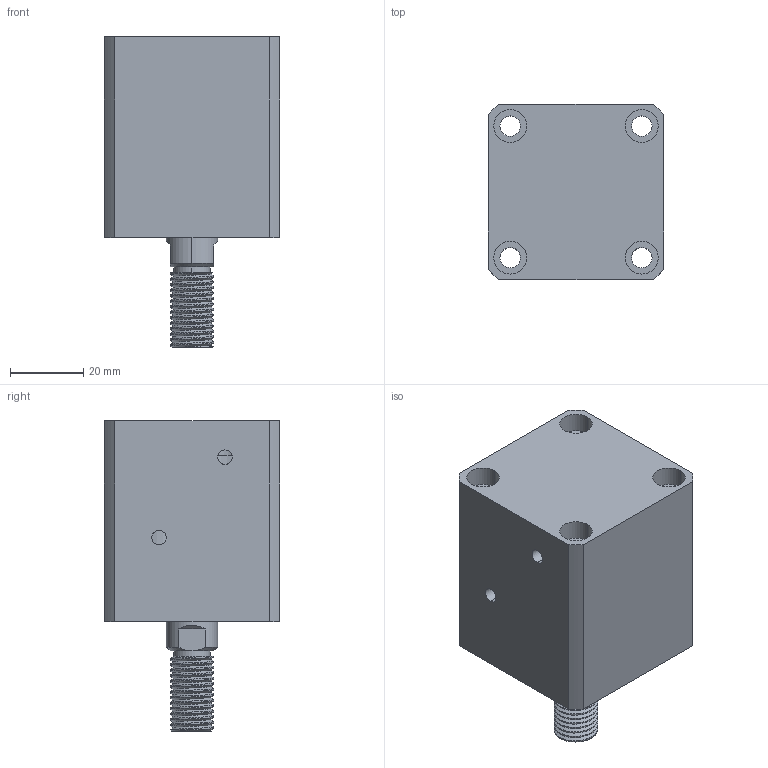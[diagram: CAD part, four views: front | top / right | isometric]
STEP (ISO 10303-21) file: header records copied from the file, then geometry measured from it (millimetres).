
FILE_DESCRIPTION (( 'STEP AP214' ), '1' );
FILE_NAME ('chtb-sdma25x10w_asm.STEP', '2018-05-22T07:16:28', ( 'Windows' ), ( 'Microsoft' ), 'SwSTEP 2.0', 'SolidWorks 2015', '' );
FILE_SCHEMA (( 'AUTOMOTIVE_DESIGN' ));
Length unit declared in the file: millimetre
Products named in the file (4): CHTB-SDMA25X10WHSG; CHTB-SDMA25X10NBT; CHTB-25QG; chtb-sdma25x10w_asm
Assembly tree (3 placements, depth 2):
  chtb-sdma25x10w_asm
    CHTB-25QG
    CHTB-SDMA25X10NBT
    CHTB-SDMA25X10WHSG
Bounding box: 48 x 48 x 85 mm (x, y, z)
Volume: 117055 mm3; surface area: 34457.1 mm2
Topology: 3 solids, 3 shells, 176 faces, 476 edges, 323 vertices
Faces by surface type: cylinder 118, plane 37, bspline 12, cone 9
Entity records: 10719 total; most frequent: CARTESIAN_POINT 6404, ORIENTED_EDGE 944, DIRECTION 765, EDGE_CURVE 472, VERTEX_POINT 323, AXIS2_PLACEMENT_3D 310, EDGE_LOOP 215, ADVANCED_FACE 176
